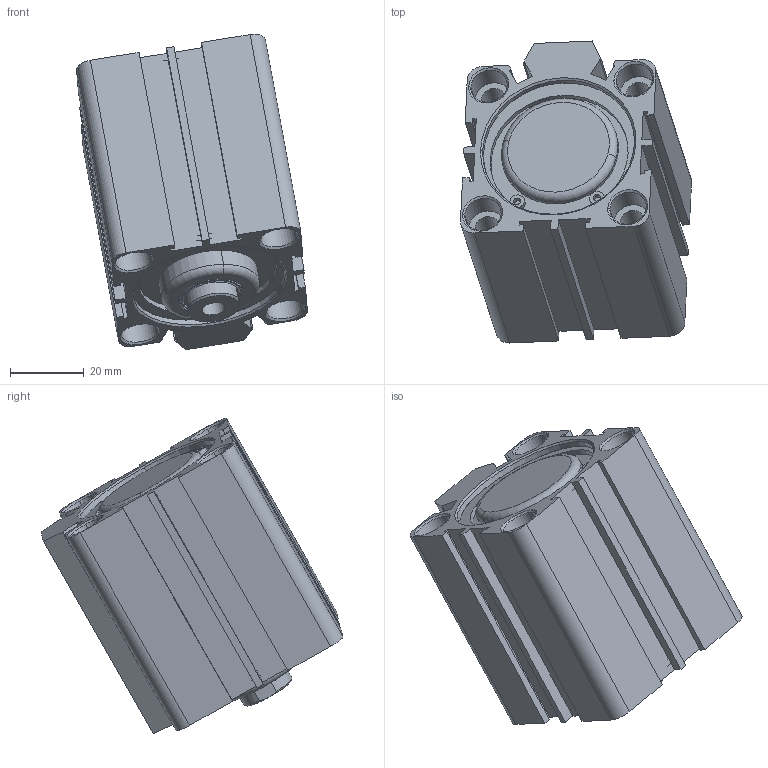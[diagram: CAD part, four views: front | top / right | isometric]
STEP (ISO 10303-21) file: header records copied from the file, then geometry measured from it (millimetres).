
FILE_DESCRIPTION (( 'STEP AP214' ), '1' );
FILE_NAME ('SDA_40_25_WEB.STEP', '2021-01-22T12:03:32', ( 'cagdas' ), ( '' ), 'SwSTEP 2.0', 'SolidWorks 2021', '' );
FILE_SCHEMA (( 'AUTOMOTIVE_DESIGN' ));
Length unit declared in the file: millimetre
Products named in the file (8): SDA40ONKAPAK; SDA_40_25_WEB; SDA40ARKAKAPAK; SDA40SEGMAN; SDA40BOGAZKECESI; SDA_40_BORU_WEB; 16_MIL_WEB; SDA40PAPYUZUK
Assembly tree (8 placements, depth 2):
  SDA_40_25_WEB
    SDA40ARKAKAPAK
    SDA40SEGMAN  x2
    SDA40ONKAPAK
    SDA40PAPYUZUK
    SDA40BOGAZKECESI
    SDA_40_BORU_WEB
    16_MIL_WEB
Bounding box: 62.79 x 82.04 x 85.77 mm (x, y, z)
Volume: 90656.8 mm3; surface area: 49209.8 mm2
Topology: 8 solids, 8 shells, 474 faces, 1175 edges, 758 vertices
Faces by surface type: plane 185, cylinder 128, bspline 85, cone 72, torus 4
Entity records: 19871 total; most frequent: CARTESIAN_POINT 7117, ORIENTED_EDGE 2254, DIRECTION 2025, EDGE_CURVE 1127, VERTEX_POINT 726, AXIS2_PLACEMENT_3D 698, VECTOR 629, LINE 629
